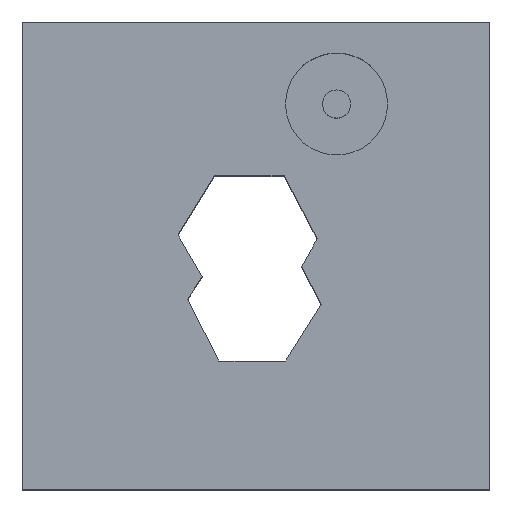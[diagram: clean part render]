
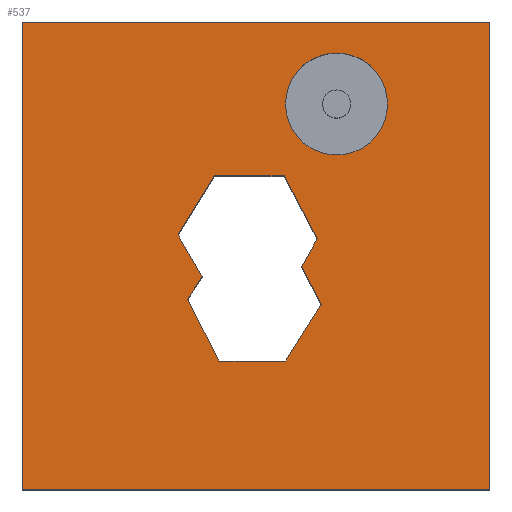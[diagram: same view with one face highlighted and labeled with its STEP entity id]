
A CAD part, top view. The second image highlights one B-rep face of the part: STEP entity #537.
In plain terms, the highlighted planar face has unit normal (0, 0, 1).
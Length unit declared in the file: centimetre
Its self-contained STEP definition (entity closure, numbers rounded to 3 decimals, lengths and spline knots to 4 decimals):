
#11 = CARTESIAN_POINT ( 'NONE',  ( 0., 0., 1000. ) ) ;
#13 = PLANE ( 'NONE',  #522 ) ;
#21 = CARTESIAN_POINT ( 'NONE',  ( 639.4028, 395.5569, 1000. ) ) ;
#22 = FACE_BOUND ( 'NONE', #562, .T. ) ;
#31 = VECTOR ( 'NONE', #169, 100. ) ;
#34 = EDGE_CURVE ( 'NONE', #495, #696, #336, .T. ) ;
#38 = DIRECTION ( 'NONE',  ( -0.5, 0.866, 0. ) ) ;
#39 = EDGE_CURVE ( 'NONE', #55, #685, #343, .T. ) ;
#40 = CARTESIAN_POINT ( 'NONE',  ( 411.2476, 671.1139, 1000. ) ) ;
#49 = VECTOR ( 'NONE', #168, 100. ) ;
#53 = LINE ( 'NONE', #755, #449 ) ;
#55 = VERTEX_POINT ( 'NONE', #283 ) ;
#63 = VERTEX_POINT ( 'NONE', #673 ) ;
#67 = ORIENTED_EDGE ( 'NONE', *, *, #441, .T. ) ;
#83 = DIRECTION ( 'NONE',  ( 0., 0., 1. ) ) ;
#87 = CARTESIAN_POINT ( 'NONE',  ( 353.7019, 406.3644, 1000. ) ) ;
#88 = EDGE_CURVE ( 'NONE', #424, #301, #353, .T. ) ;
#111 = CARTESIAN_POINT ( 'NONE',  ( 0., 0., 1000. ) ) ;
#113 = CARTESIAN_POINT ( 'NONE',  ( 420.4474, 274.5467, 1000. ) ) ;
#116 = DIRECTION ( 'NONE',  ( 0.452, -0.892, 0. ) ) ;
#121 = FACE_BOUND ( 'NONE', #382, .T. ) ;
#125 = CARTESIAN_POINT ( 'NONE',  ( 639.4028, 395.5569, 1000. ) ) ;
#137 = ORIENTED_EDGE ( 'NONE', *, *, #398, .T. ) ;
#140 = EDGE_LOOP ( 'NONE', ( #137, #630, #508, #812 ) ) ;
#149 = VECTOR ( 'NONE', #38, 100. ) ;
#162 = CARTESIAN_POINT ( 'NONE',  ( 333.1675, 544.2705, 1000. ) ) ;
#168 = DIRECTION ( 'NONE',  ( -0.452, 0.892, 0. ) ) ;
#169 = DIRECTION ( 'NONE',  ( 1., 0., 0. ) ) ;
#175 = EDGE_CURVE ( 'NONE', #500, #564, #547, .T. ) ;
#191 = VERTEX_POINT ( 'NONE', #370 ) ;
#193 = DIRECTION ( 'NONE',  ( 0., 0., 1. ) ) ;
#207 = LINE ( 'NONE', #589, #602 ) ;
#216 = CARTESIAN_POINT ( 'NONE',  ( 0., 0., 1000. ) ) ;
#220 = CARTESIAN_POINT ( 'NONE',  ( 598.1243, 477.0791, 1000. ) ) ;
#225 = VECTOR ( 'NONE', #784, 100. ) ;
#234 = LINE ( 'NONE', #484, #342 ) ;
#236 = ORIENTED_EDGE ( 'NONE', *, *, #175, .F. ) ;
#248 = VERTEX_POINT ( 'NONE', #125 ) ;
#258 = VECTOR ( 'NONE', #281, 100. ) ;
#271 = LINE ( 'NONE', #453, #708 ) ;
#277 = CARTESIAN_POINT ( 'NONE',  ( 420.4474, 274.5467, 1000. ) ) ;
#279 = ORIENTED_EDGE ( 'NONE', *, *, #625, .T. ) ;
#280 = CARTESIAN_POINT ( 'NONE',  ( 384.5076, 455.3467, 1000. ) ) ;
#281 = DIRECTION ( 'NONE',  ( -0.532, -0.847, 0. ) ) ;
#283 = CARTESIAN_POINT ( 'NONE',  ( 1000., 1000., 1000. ) ) ;
#286 = EDGE_CURVE ( 'NONE', #248, #191, #390, .T. ) ;
#295 = DIRECTION ( 'NONE',  ( 1., 0., 0. ) ) ;
#297 = VECTOR ( 'NONE', #727, 100. ) ;
#301 = VERTEX_POINT ( 'NONE', #401 ) ;
#303 = CARTESIAN_POINT ( 'NONE',  ( 672.3876, 824.5181, 1000. ) ) ;
#336 = LINE ( 'NONE', #11, #297 ) ;
#339 = VECTOR ( 'NONE', #460, 100. ) ;
#342 = VECTOR ( 'NONE', #448, 100. ) ;
#343 = LINE ( 'NONE', #647, #339 ) ;
#344 = CARTESIAN_POINT ( 'NONE',  ( 630.9469, 535.8752, 1000. ) ) ;
#353 = LINE ( 'NONE', #40, #31 ) ;
#368 = CARTESIAN_POINT ( 'NONE',  ( 672.3876, 824.5181, 1000. ) ) ;
#370 = CARTESIAN_POINT ( 'NONE',  ( 563.2978, 274.5467, 1000. ) ) ;
#371 = ORIENTED_EDGE ( 'NONE', *, *, #805, .T. ) ;
#378 = ORIENTED_EDGE ( 'NONE', *, *, #680, .T. ) ;
#379 = DIRECTION ( 'NONE',  ( 1., 0., 0. ) ) ;
#382 = EDGE_LOOP ( 'NONE', ( #236, #706 ) ) ;
#390 = LINE ( 'NONE', #21, #258 ) ;
#397 = CARTESIAN_POINT ( 'NONE',  ( 781.482, 824.5181, 1000. ) ) ;
#398 = EDGE_CURVE ( 'NONE', #685, #495, #716, .T. ) ;
#400 = DIRECTION ( 'NONE',  ( 0.524, 0.852, 0. ) ) ;
#401 = CARTESIAN_POINT ( 'NONE',  ( 560.1373, 671.1139, 1000. ) ) ;
#402 = EDGE_CURVE ( 'NONE', #503, #408, #207, .T. ) ;
#408 = VERTEX_POINT ( 'NONE', #220 ) ;
#424 = VERTEX_POINT ( 'NONE', #524 ) ;
#441 = EDGE_CURVE ( 'NONE', #488, #595, #456, .T. ) ;
#444 = DIRECTION ( 'NONE',  ( -0.487, -0.873, 0. ) ) ;
#448 = DIRECTION ( 'NONE',  ( -1., 0., 0. ) ) ;
#449 = VECTOR ( 'NONE', #116, 100. ) ;
#450 = DIRECTION ( 'NONE',  ( 0., -1., 0. ) ) ;
#453 = CARTESIAN_POINT ( 'NONE',  ( 560.1373, 671.1139, 1000. ) ) ;
#456 = LINE ( 'NONE', #533, #225 ) ;
#460 = DIRECTION ( 'NONE',  ( -1., 0., 0. ) ) ;
#484 = CARTESIAN_POINT ( 'NONE',  ( 563.2978, 274.5467, 1000. ) ) ;
#488 = VERTEX_POINT ( 'NONE', #87 ) ;
#495 = VERTEX_POINT ( 'NONE', #216 ) ;
#496 = DIRECTION ( 'NONE',  ( 0., 1., 0. ) ) ;
#500 = VERTEX_POINT ( 'NONE', #397 ) ;
#503 = VERTEX_POINT ( 'NONE', #344 ) ;
#508 = ORIENTED_EDGE ( 'NONE', *, *, #797, .T. ) ;
#509 = AXIS2_PLACEMENT_3D ( 'NONE', #368, #764, #379 ) ;
#522 = AXIS2_PLACEMENT_3D ( 'NONE', #111, #83, #811 ) ;
#524 = CARTESIAN_POINT ( 'NONE',  ( 411.2476, 671.1139, 1000. ) ) ;
#530 = ORIENTED_EDGE ( 'NONE', *, *, #610, .T. ) ;
#533 = CARTESIAN_POINT ( 'NONE',  ( 353.7019, 406.3644, 1000. ) ) ;
#534 = VECTOR ( 'NONE', #450, 100. ) ;
#536 = AXIS2_PLACEMENT_3D ( 'NONE', #303, #193, #295 ) ;
#537 = ADVANCED_FACE ( 'NONE', ( #22, #121, #729 ), #13, .T. ) ;
#538 = EDGE_CURVE ( 'NONE', #301, #503, #271, .T. ) ;
#547 = CIRCLE ( 'NONE', #509, 109.0944 ) ;
#562 = EDGE_LOOP ( 'NONE', ( #813, #611, #371, #530, #67, #378, #279, #565, #807, #660 ) ) ;
#564 = VERTEX_POINT ( 'NONE', #665 ) ;
#565 = ORIENTED_EDGE ( 'NONE', *, *, #88, .T. ) ;
#578 = VERTEX_POINT ( 'NONE', #277 ) ;
#589 = CARTESIAN_POINT ( 'NONE',  ( 630.9469, 535.8752, 1000. ) ) ;
#595 = VERTEX_POINT ( 'NONE', #280 ) ;
#599 = LINE ( 'NONE', #661, #149 ) ;
#602 = VECTOR ( 'NONE', #444, 100. ) ;
#604 = VECTOR ( 'NONE', #496, 100. ) ;
#606 = DIRECTION ( 'NONE',  ( 0.464, -0.886, 0. ) ) ;
#610 = EDGE_CURVE ( 'NONE', #578, #488, #720, .T. ) ;
#611 = ORIENTED_EDGE ( 'NONE', *, *, #286, .T. ) ;
#625 = EDGE_CURVE ( 'NONE', #63, #424, #725, .T. ) ;
#630 = ORIENTED_EDGE ( 'NONE', *, *, #34, .T. ) ;
#647 = CARTESIAN_POINT ( 'NONE',  ( 0., 1000., 1000. ) ) ;
#660 = ORIENTED_EDGE ( 'NONE', *, *, #402, .T. ) ;
#661 = CARTESIAN_POINT ( 'NONE',  ( 411.2476, 409.0317, 1000. ) ) ;
#665 = CARTESIAN_POINT ( 'NONE',  ( 563.2932, 824.5181, 1000. ) ) ;
#673 = CARTESIAN_POINT ( 'NONE',  ( 333.1675, 544.2705, 1000. ) ) ;
#680 = EDGE_CURVE ( 'NONE', #595, #63, #599, .T. ) ;
#685 = VERTEX_POINT ( 'NONE', #822 ) ;
#696 = VERTEX_POINT ( 'NONE', #814 ) ;
#706 = ORIENTED_EDGE ( 'NONE', *, *, #791, .F. ) ;
#708 = VECTOR ( 'NONE', #606, 100. ) ;
#716 = LINE ( 'NONE', #778, #534 ) ;
#720 = LINE ( 'NONE', #113, #49 ) ;
#725 = LINE ( 'NONE', #162, #746 ) ;
#727 = DIRECTION ( 'NONE',  ( 1., 0., 0. ) ) ;
#729 = FACE_OUTER_BOUND ( 'NONE', #140, .T. ) ;
#745 = CARTESIAN_POINT ( 'NONE',  ( 1000., 1000., 1000. ) ) ;
#746 = VECTOR ( 'NONE', #400, 100. ) ;
#755 = CARTESIAN_POINT ( 'NONE',  ( 572.6574, 527.3746, 1000. ) ) ;
#762 = EDGE_CURVE ( 'NONE', #408, #248, #53, .T. ) ;
#764 = DIRECTION ( 'NONE',  ( 0., 0., 1. ) ) ;
#766 = CIRCLE ( 'NONE', #536, 109.0944 ) ;
#778 = CARTESIAN_POINT ( 'NONE',  ( 0., 1000., 1000. ) ) ;
#784 = DIRECTION ( 'NONE',  ( 0.532, 0.847, 0. ) ) ;
#791 = EDGE_CURVE ( 'NONE', #564, #500, #766, .T. ) ;
#797 = EDGE_CURVE ( 'NONE', #696, #55, #809, .T. ) ;
#805 = EDGE_CURVE ( 'NONE', #191, #578, #234, .T. ) ;
#807 = ORIENTED_EDGE ( 'NONE', *, *, #538, .T. ) ;
#809 = LINE ( 'NONE', #745, #604 ) ;
#811 = DIRECTION ( 'NONE',  ( 1., 0., 0. ) ) ;
#812 = ORIENTED_EDGE ( 'NONE', *, *, #39, .T. ) ;
#813 = ORIENTED_EDGE ( 'NONE', *, *, #762, .T. ) ;
#814 = CARTESIAN_POINT ( 'NONE',  ( 1000., 0., 1000. ) ) ;
#822 = CARTESIAN_POINT ( 'NONE',  ( 0., 1000., 1000. ) ) ;
